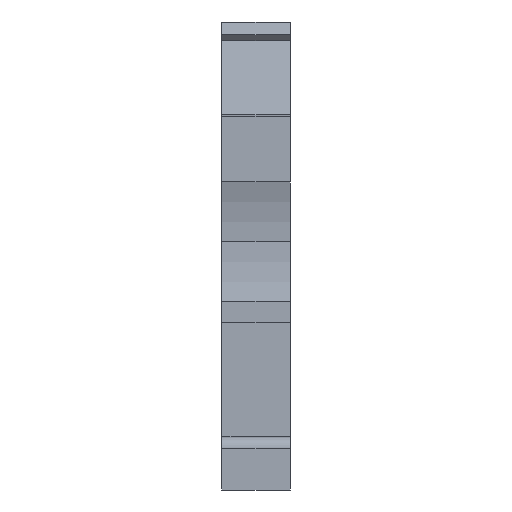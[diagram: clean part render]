
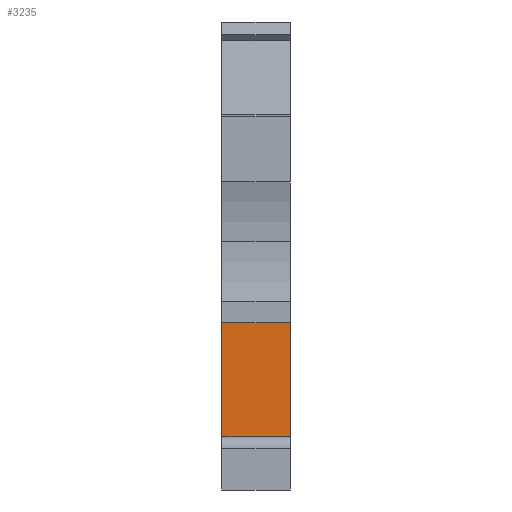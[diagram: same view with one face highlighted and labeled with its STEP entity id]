
A CAD part, front view. The second image highlights one B-rep face of the part: STEP entity #3235.
In plain terms, the highlighted planar face has unit normal (0, -1, 0).
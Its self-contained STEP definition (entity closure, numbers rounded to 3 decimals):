
#811=CARTESIAN_POINT('',(-0.,3.6,4.));
#812=VERTEX_POINT('',#811);
#813=CARTESIAN_POINT('',(-0.,3.6,12.6));
#814=VERTEX_POINT('',#813);
#815=CARTESIAN_POINT('',(-0.,3.6,4.));
#816=DIRECTION('',(-0.,-0.,1.));
#817=VECTOR('',#816,8.6);
#818=LINE('',#815,#817);
#819=EDGE_CURVE('',#812,#814,#818,.T.);
#3011=CARTESIAN_POINT('',(5.15,3.6,12.6));
#3012=VERTEX_POINT('',#3011);
#3019=CARTESIAN_POINT('',(5.15,3.6,1.5));
#3020=VERTEX_POINT('',#3019);
#3021=CARTESIAN_POINT('',(5.15,3.6,1.5));
#3022=DIRECTION('',(-0.,-0.,1.));
#3023=VECTOR('',#3022,11.1);
#3024=LINE('',#3021,#3023);
#3025=EDGE_CURVE('',#3020,#3012,#3024,.T.);
#3113=CARTESIAN_POINT('',(1.,3.6,4.));
#3114=VERTEX_POINT('',#3113);
#3115=CARTESIAN_POINT('',(-0.,3.6,4.));
#3116=DIRECTION('',(1.,-0.,0.));
#3117=VECTOR('',#3116,1.);
#3118=LINE('',#3115,#3117);
#3119=EDGE_CURVE('',#812,#3114,#3118,.T.);
#3144=CARTESIAN_POINT('',(1.,3.6,1.5));
#3145=VERTEX_POINT('',#3144);
#3154=CARTESIAN_POINT('',(1.,3.6,1.5));
#3155=DIRECTION('',(-0.,-0.,1.));
#3156=VECTOR('',#3155,2.5);
#3157=LINE('',#3154,#3156);
#3158=EDGE_CURVE('',#3145,#3114,#3157,.T.);
#3212=CARTESIAN_POINT('',(5.15,3.6,5.));
#3213=DIRECTION('',(-0.,-1.,-0.));
#3214=DIRECTION('',(-0.,-0.,1.));
#3215=AXIS2_PLACEMENT_3D('',#3212,#3213,#3214);
#3216=PLANE('',#3215);
#3217=ORIENTED_EDGE('',*,*,#3158,.F.);
#3218=CARTESIAN_POINT('',(5.15,3.6,1.5));
#3219=DIRECTION('',(-1.,0.,-0.));
#3220=VECTOR('',#3219,4.15);
#3221=LINE('',#3218,#3220);
#3222=EDGE_CURVE('',#3020,#3145,#3221,.T.);
#3223=ORIENTED_EDGE('',*,*,#3222,.F.);
#3224=ORIENTED_EDGE('',*,*,#3025,.T.);
#3225=CARTESIAN_POINT('',(-0.,3.6,12.6));
#3226=DIRECTION('',(1.,-0.,0.));
#3227=VECTOR('',#3226,5.15);
#3228=LINE('',#3225,#3227);
#3229=EDGE_CURVE('',#814,#3012,#3228,.T.);
#3230=ORIENTED_EDGE('',*,*,#3229,.F.);
#3231=ORIENTED_EDGE('',*,*,#819,.F.);
#3232=ORIENTED_EDGE('',*,*,#3119,.T.);
#3233=EDGE_LOOP('',(#3217,#3223,#3224,#3230,#3231,#3232));
#3234=FACE_BOUND('',#3233,.T.);
#3235=ADVANCED_FACE('',(#3234),#3216,.T.);
